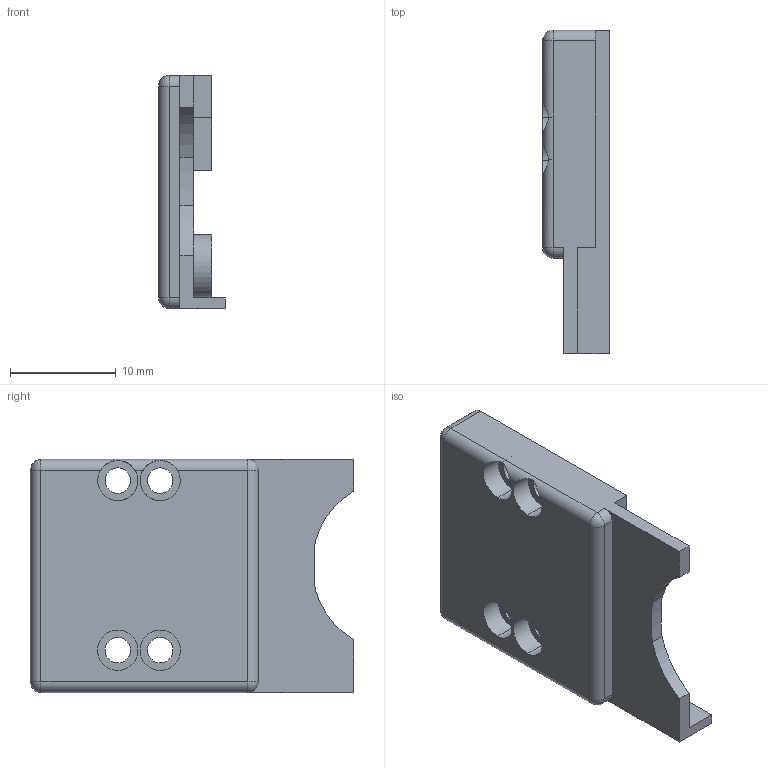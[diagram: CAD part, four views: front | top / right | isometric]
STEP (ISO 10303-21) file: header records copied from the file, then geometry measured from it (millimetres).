
FILE_DESCRIPTION (( 'STEP AP214' ), '1' );
FILE_NAME ('Index_connect_with_line.STEP', '2026-09-17T10:05:22', ( '' ), ( '' ), 'SwSTEP 2.0', 'SolidWorks 2024', '' );
FILE_SCHEMA (( 'AUTOMOTIVE_DESIGN' ));
Length unit declared in the file: millimetre
Products named in the file (2): 手指外壳2镜像_默认; Index_connect_with_line
Assembly tree (1 placements, depth 2):
  Index_connect_with_line
    手指外壳2镜像_默认
Bounding box: 6.3 x 30.5 x 22 mm (x, y, z)
Volume: 1406.4 mm3; surface area: 2128.7 mm2
Topology: 1 solids, 1 shells, 57 faces, 149 edges, 92 vertices
Faces by surface type: cylinder 29, plane 24, sphere 4
Entity records: 1832 total; most frequent: CARTESIAN_POINT 342, DIRECTION 321, ORIENTED_EDGE 290, EDGE_CURVE 145, AXIS2_PLACEMENT_3D 119, VERTEX_POINT 92, VECTOR 83, LINE 83
